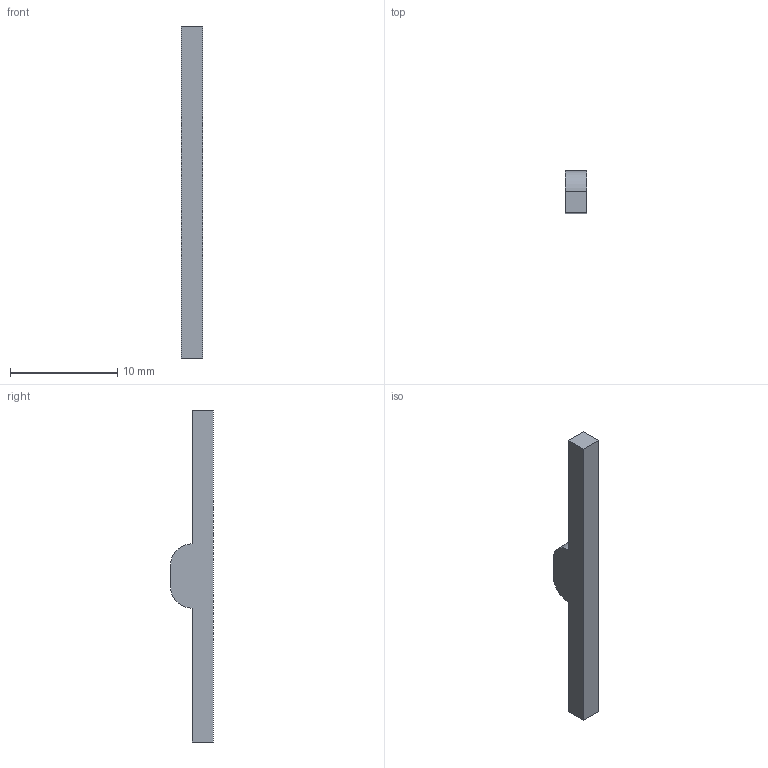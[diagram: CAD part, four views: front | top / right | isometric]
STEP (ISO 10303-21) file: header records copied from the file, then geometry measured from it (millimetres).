
FILE_DESCRIPTION (( 'STEP AP214' ), '1' );
FILE_NAME ('Kugel_Kalibrierhalter.STEP', '2025-12-23T14:20:25', ( '' ), ( '' ), 'SwSTEP 2.0', 'SolidWorks 2025', '' );
FILE_SCHEMA (( 'AUTOMOTIVE_DESIGN' ));
Length unit declared in the file: millimetre
Products named in the file (1): Kugel_Kalibrierhalter
Bounding box: 2 x 4 x 31 mm (x, y, z)
Volume: 144.6 mm3; surface area: 281.1 mm2
Topology: 1 solids, 1 shells, 10 faces, 24 edges, 16 vertices
Faces by surface type: plane 8, cylinder 2
Entity records: 315 total; most frequent: CARTESIAN_POINT 51, DIRECTION 50, ORIENTED_EDGE 48, EDGE_CURVE 24, VECTOR 20, LINE 20, VERTEX_POINT 16, AXIS2_PLACEMENT_3D 15
